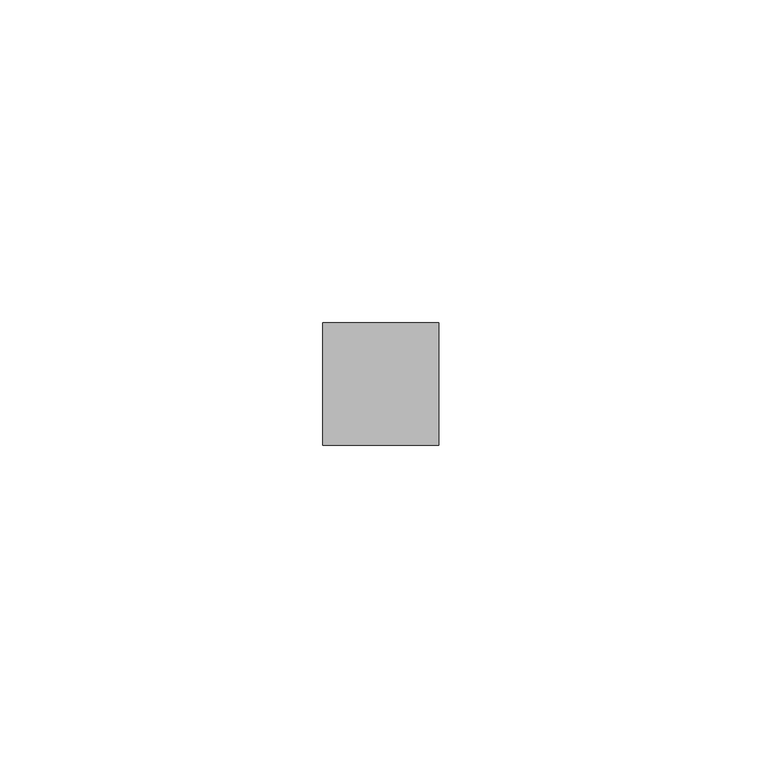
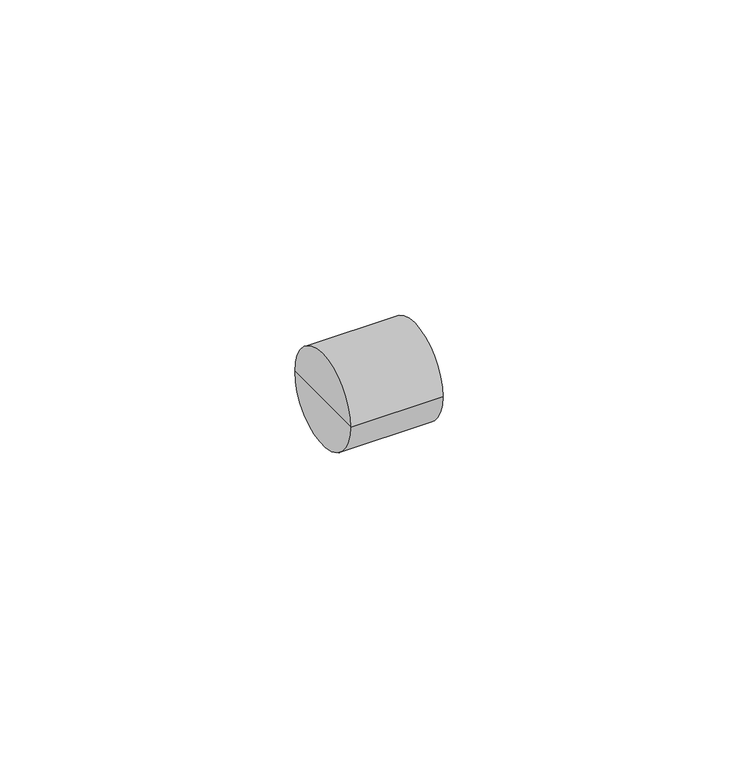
"""IFC4 building model written with IfcOpenShell, lengths in millimetres: pipe fitting geometry, KAN-therm Push mosiężny pierścień nasuwany : KAN-therm Push mosiężny pierścień nasuwany."""

from ifc_helpers import new_model, si_unit, frame, origin, place, context, project, spatial, circle_curve, source, transform, mapped, element, save
from ifc_brep_helpers import plane_surface, cylinder_surface, advanced_brep


def pipe_fitting_50392070(model_context):
    return source(origin(), model_context, "Body", "AdvancedBrep", [
        advanced_brep(
        [(18.0, -9.5, 0.0), (18.0, 9.5, 0.0), (18.0, 0.0, 0.0), (0.0, -9.5, 0.0), (0.0, 9.5, 0.0), (0.0, 0.0, 0.0)],
        [
            (0, 1, circle_curve(frame((18.0, 0.0, 0.0), z_axis=(1.0, 0.0, 0.0), x_axis=(0.0, 1.0, 0.0)), 9.5)),
            (1, 2),
            (2, 0),
            (1, 0, circle_curve(frame((18.0, 0.0, 0.0), z_axis=(1.0, 0.0, 0.0), x_axis=(0.0, 1.0, 0.0)), 9.5)),
            (3, 4, circle_curve(frame((0.0, 0.0, 0.0), z_axis=(1.0, 0.0, 0.0), x_axis=(0.0, 1.0, 0.0)), 9.5)),
            (4, 1),
            (0, 3),
            (4, 3, circle_curve(frame((0.0, 0.0, 0.0), z_axis=(1.0, 0.0, 0.0), x_axis=(0.0, 1.0, 0.0)), 9.5)),
            (5, 4),
            (3, 5),
        ],
        [
            plane_surface(frame((18.0, 0.0, 0.0), z_axis=(1.0, 0.0, 0.0), x_axis=(0.0, 1.0, 0.0))),
            cylinder_surface(frame((1995.0, 0.0, 0.0), z_axis=(-1.0, 0.0, 0.0), x_axis=(0.0, 1.0, 0.0)), 9.5),
            plane_surface(frame((0.0, 0.0, 0.0), z_axis=(-1.0, 0.0, 0.0), x_axis=(0.0, 1.0, 0.0))),
        ],
        [
            (0, [[1, 2, 3]]),
            (0, [[4, -3, -2]]),
            (1, [[5, 6, -1, 7]]),
            (1, [[8, -7, -4, -6]]),
            (2, [[9, -5, 10]]),
            (2, [[-10, -8, -9]]),
        ],
    ),
    ])


if __name__ == "__main__":
    model = new_model("IFC4")
    model_context = context("Model", 3, world=origin())
    ifc_project = project(units=[si_unit("LENGTHUNIT", "METRE", prefix="MILLI")], contexts=[model_context])
    site = spatial("IfcSite", under=ifc_project)
    building = spatial("IfcBuilding", under=site)
    placement = place(None, origin())
    pipe_fitting_shape = pipe_fitting_50392070(model_context)
    element("IfcPipeFitting", 1, ObjectType="KAN-therm Push mosiężny pierścień nasuwany : KAN-therm Push mosiężny pierścień nasuwany", at=placement, inside=building, context=model_context, shape_type="MappedRepresentation", body=[
        mapped(pipe_fitting_shape, transform((0.0, 0.0, 0.0), x_axis=(1.0, 0.0, 0.0), y_axis=(0.0, 1.0, 0.0), z_axis=(0.0, 0.0, 1.0))),
    ])
    save(model, "model.ifc")
